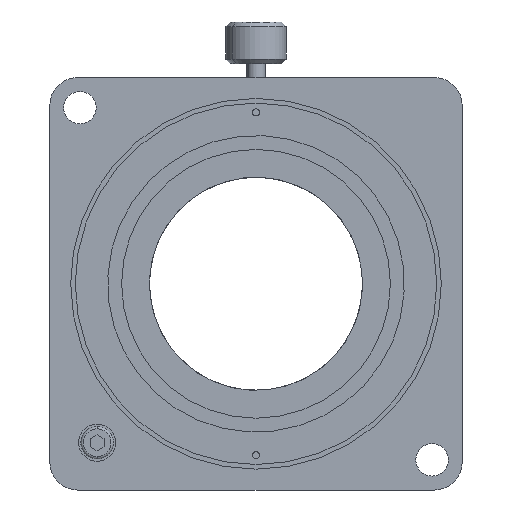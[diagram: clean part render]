
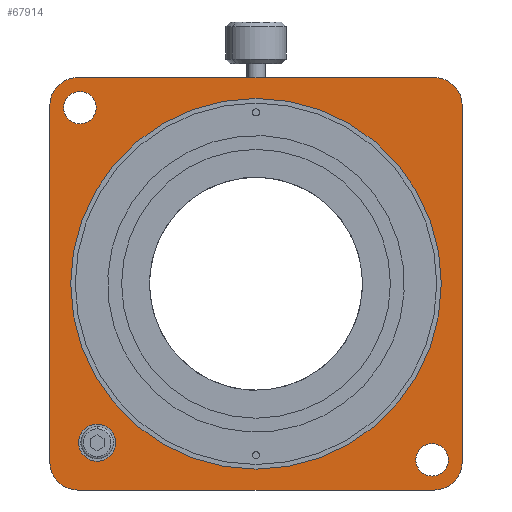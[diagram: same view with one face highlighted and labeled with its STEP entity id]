
A CAD part, front view. The second image highlights one B-rep face of the part: STEP entity #67914.
In plain terms, the highlighted planar face has unit normal (0, -1, 0).
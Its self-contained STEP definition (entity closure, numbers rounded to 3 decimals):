
#163 = CARTESIAN_POINT ( 'NONE',  ( -34.295, -10., -34.295 ) ) ;
#488 = DIRECTION ( 'NONE',  ( 0., 0., -1. ) ) ;
#994 = DIRECTION ( 'NONE',  ( 0., -1., 0. ) ) ;
#2302 = CARTESIAN_POINT ( 'NONE',  ( 38.5, -10., 38.5 ) ) ;
#3390 = CARTESIAN_POINT ( 'NONE',  ( -38., -10., 34.5 ) ) ;
#4283 = ORIENTED_EDGE ( 'NONE', *, *, #30777, .T. ) ;
#5084 = CARTESIAN_POINT ( 'NONE',  ( 44.5, -10., 44.5 ) ) ;
#5385 = ORIENTED_EDGE ( 'NONE', *, *, #60617, .F. ) ;
#5797 = CIRCLE ( 'NONE', #9444, 6. ) ;
#6558 = LINE ( 'NONE', #16370, #18154 ) ;
#7491 = CARTESIAN_POINT ( 'NONE',  ( -44.5, -10., -38.5 ) ) ;
#8184 = VERTEX_POINT ( 'NONE', #33749 ) ;
#8786 = EDGE_CURVE ( 'NONE', #54553, #35523, #75058, .T. ) ;
#9444 = AXIS2_PLACEMENT_3D ( 'NONE', #52425, #25826, #52726 ) ;
#9449 = VERTEX_POINT ( 'NONE', #44376 ) ;
#9494 = CARTESIAN_POINT ( 'NONE',  ( -38.5, -10., 38.5 ) ) ;
#10033 = VERTEX_POINT ( 'NONE', #79578 ) ;
#10203 = LINE ( 'NONE', #5084, #79869 ) ;
#10426 = CARTESIAN_POINT ( 'NONE',  ( -44.5, -10., 38.5 ) ) ;
#11196 = VECTOR ( 'NONE', #29151, 1000. ) ;
#11413 = DIRECTION ( 'NONE',  ( 0., -1., 0. ) ) ;
#12232 = CIRCLE ( 'NONE', #61338, 3.5 ) ;
#12913 = DIRECTION ( 'NONE',  ( 0., 0., -1. ) ) ;
#13559 = CARTESIAN_POINT ( 'NONE',  ( 44.5, -10., -44.5 ) ) ;
#14194 = FACE_OUTER_BOUND ( 'NONE', #14528, .T. ) ;
#14528 = EDGE_LOOP ( 'NONE', ( #80973, #4283, #18871, #68810, #70571, #61721, #41943, #74124 ) ) ;
#15386 = CIRCLE ( 'NONE', #86783, 3.5 ) ;
#15646 = DIRECTION ( 'NONE',  ( 0., 0., -1. ) ) ;
#16264 = DIRECTION ( 'NONE',  ( 0., 0., -1. ) ) ;
#16281 = AXIS2_PLACEMENT_3D ( 'NONE', #68569, #994, #75060 ) ;
#16284 = CIRCLE ( 'NONE', #63003, 40. ) ;
#16294 = VERTEX_POINT ( 'NONE', #10426 ) ;
#16370 = CARTESIAN_POINT ( 'NONE',  ( -44.5, -10., 44.5 ) ) ;
#18100 = VERTEX_POINT ( 'NONE', #19291 ) ;
#18154 = VECTOR ( 'NONE', #78882, 1000. ) ;
#18772 = CIRCLE ( 'NONE', #73175, 4. ) ;
#18871 = ORIENTED_EDGE ( 'NONE', *, *, #40743, .F. ) ;
#19035 = AXIS2_PLACEMENT_3D ( 'NONE', #9494, #69634, #16264 ) ;
#19291 = CARTESIAN_POINT ( 'NONE',  ( 38.5, -10., 44.5 ) ) ;
#20570 = FACE_BOUND ( 'NONE', #40618, .T. ) ;
#20881 = CARTESIAN_POINT ( 'NONE',  ( -44.5, -10., 44.5 ) ) ;
#21605 = EDGE_CURVE ( 'NONE', #75561, #8184, #39463, .T. ) ;
#23285 = VERTEX_POINT ( 'NONE', #35606 ) ;
#24381 = DIRECTION ( 'NONE',  ( 0., 1., 0. ) ) ;
#24474 = CARTESIAN_POINT ( 'NONE',  ( 38., -10., -41.5 ) ) ;
#25826 = DIRECTION ( 'NONE',  ( 0., -1., 0. ) ) ;
#26540 = EDGE_CURVE ( 'NONE', #37809, #52633, #77331, .T. ) ;
#28081 = EDGE_CURVE ( 'NONE', #9449, #16294, #64108, .T. ) ;
#28587 = ORIENTED_EDGE ( 'NONE', *, *, #8786, .T. ) ;
#28880 = ORIENTED_EDGE ( 'NONE', *, *, #21605, .F. ) ;
#29151 = DIRECTION ( 'NONE',  ( -1., 0., 0. ) ) ;
#29768 = EDGE_CURVE ( 'NONE', #9449, #18100, #6558, .T. ) ;
#30189 = VECTOR ( 'NONE', #68038, 1000. ) ;
#30777 = EDGE_CURVE ( 'NONE', #23285, #76899, #39260, .T. ) ;
#31673 = AXIS2_PLACEMENT_3D ( 'NONE', #49515, #35057, #62177 ) ;
#31995 = EDGE_LOOP ( 'NONE', ( #28587, #54175 ) ) ;
#32055 = CARTESIAN_POINT ( 'NONE',  ( 0., -10., 0. ) ) ;
#32189 = FACE_BOUND ( 'NONE', #73811, .T. ) ;
#33182 = EDGE_CURVE ( 'NONE', #73172, #49595, #69967, .T. ) ;
#33289 = DIRECTION ( 'NONE',  ( 0., -1., 0. ) ) ;
#33749 = CARTESIAN_POINT ( 'NONE',  ( 0., -10., -40. ) ) ;
#33905 = PLANE ( 'NONE',  #34659 ) ;
#34185 = DIRECTION ( 'NONE',  ( 0., -1., 0. ) ) ;
#34659 = AXIS2_PLACEMENT_3D ( 'NONE', #13559, #34185, #488 ) ;
#35057 = DIRECTION ( 'NONE',  ( 0., 1., 0. ) ) ;
#35091 = EDGE_CURVE ( 'NONE', #8184, #75561, #16284, .T. ) ;
#35523 = VERTEX_POINT ( 'NONE', #24474 ) ;
#35606 = CARTESIAN_POINT ( 'NONE',  ( 38.5, -10., -44.5 ) ) ;
#36618 = CARTESIAN_POINT ( 'NONE',  ( -34.295, -10., -30.295 ) ) ;
#36812 = DIRECTION ( 'NONE',  ( 0., 1., 0. ) ) ;
#37809 = VERTEX_POINT ( 'NONE', #36618 ) ;
#38421 = DIRECTION ( 'NONE',  ( 0., 0., -1. ) ) ;
#39260 = CIRCLE ( 'NONE', #16281, 6. ) ;
#39463 = CIRCLE ( 'NONE', #55266, 40. ) ;
#40129 = EDGE_CURVE ( 'NONE', #51396, #16294, #48111, .T. ) ;
#40618 = EDGE_LOOP ( 'NONE', ( #63919, #28880 ) ) ;
#40743 = EDGE_CURVE ( 'NONE', #81038, #76899, #10203, .T. ) ;
#41943 = ORIENTED_EDGE ( 'NONE', *, *, #40129, .F. ) ;
#44376 = CARTESIAN_POINT ( 'NONE',  ( -38.5, -10., 44.5 ) ) ;
#44673 = CIRCLE ( 'NONE', #55677, 6. ) ;
#45224 = AXIS2_PLACEMENT_3D ( 'NONE', #78084, #24381, #78367 ) ;
#46558 = EDGE_CURVE ( 'NONE', #49595, #73172, #15386, .T. ) ;
#48111 = LINE ( 'NONE', #20881, #30189 ) ;
#49214 = CARTESIAN_POINT ( 'NONE',  ( 38., -10., -34.5 ) ) ;
#49515 = CARTESIAN_POINT ( 'NONE',  ( 38., -10., -38. ) ) ;
#49595 = VERTEX_POINT ( 'NONE', #3390 ) ;
#50074 = CARTESIAN_POINT ( 'NONE',  ( -38., -10., 38. ) ) ;
#50117 = FACE_BOUND ( 'NONE', #66336, .T. ) ;
#51251 = EDGE_CURVE ( 'NONE', #35523, #54553, #12232, .T. ) ;
#51396 = VERTEX_POINT ( 'NONE', #7491 ) ;
#51436 = CARTESIAN_POINT ( 'NONE',  ( 0., -10., 0. ) ) ;
#51727 = DIRECTION ( 'NONE',  ( 0., -1., 0. ) ) ;
#52425 = CARTESIAN_POINT ( 'NONE',  ( -38.5, -10., -38.5 ) ) ;
#52633 = VERTEX_POINT ( 'NONE', #55201 ) ;
#52726 = DIRECTION ( 'NONE',  ( 0., 0., -1. ) ) ;
#54175 = ORIENTED_EDGE ( 'NONE', *, *, #51251, .T. ) ;
#54437 = DIRECTION ( 'NONE',  ( 0., 0., 1. ) ) ;
#54553 = VERTEX_POINT ( 'NONE', #49214 ) ;
#54566 = CARTESIAN_POINT ( 'NONE',  ( -38., -10., 41.5 ) ) ;
#54602 = EDGE_CURVE ( 'NONE', #23285, #10033, #82919, .T. ) ;
#55201 = CARTESIAN_POINT ( 'NONE',  ( -34.295, -10., -38.295 ) ) ;
#55266 = AXIS2_PLACEMENT_3D ( 'NONE', #51436, #51727, #64644 ) ;
#55677 = AXIS2_PLACEMENT_3D ( 'NONE', #2302, #82544, #15646 ) ;
#60617 = EDGE_CURVE ( 'NONE', #52633, #37809, #18772, .T. ) ;
#60672 = FACE_BOUND ( 'NONE', #31995, .T. ) ;
#61338 = AXIS2_PLACEMENT_3D ( 'NONE', #80096, #86833, #54437 ) ;
#61721 = ORIENTED_EDGE ( 'NONE', *, *, #28081, .T. ) ;
#62177 = DIRECTION ( 'NONE',  ( 0., 0., 1. ) ) ;
#63003 = AXIS2_PLACEMENT_3D ( 'NONE', #32055, #79782, #72698 ) ;
#63919 = ORIENTED_EDGE ( 'NONE', *, *, #35091, .F. ) ;
#64108 = CIRCLE ( 'NONE', #19035, 6. ) ;
#64191 = CARTESIAN_POINT ( 'NONE',  ( 44.5, -10., -38.5 ) ) ;
#64644 = DIRECTION ( 'NONE',  ( 0., 0., -1. ) ) ;
#66336 = EDGE_LOOP ( 'NONE', ( #5385, #85035 ) ) ;
#67914 = ADVANCED_FACE ( 'NONE', ( #20570, #50117, #32189, #60672, #14194 ), #33905, .T. ) ;
#68038 = DIRECTION ( 'NONE',  ( 0., 0., 1. ) ) ;
#68569 = CARTESIAN_POINT ( 'NONE',  ( 38.5, -10., -38.5 ) ) ;
#68806 = EDGE_CURVE ( 'NONE', #81038, #18100, #44673, .T. ) ;
#68810 = ORIENTED_EDGE ( 'NONE', *, *, #68806, .T. ) ;
#69634 = DIRECTION ( 'NONE',  ( 0., -1., 0. ) ) ;
#69967 = CIRCLE ( 'NONE', #45224, 3.5 ) ;
#70571 = ORIENTED_EDGE ( 'NONE', *, *, #29768, .F. ) ;
#72696 = CARTESIAN_POINT ( 'NONE',  ( 0., -10., 40. ) ) ;
#72698 = DIRECTION ( 'NONE',  ( 0., 0., -1. ) ) ;
#72716 = DIRECTION ( 'NONE',  ( 0., 0., -1. ) ) ;
#73172 = VERTEX_POINT ( 'NONE', #54566 ) ;
#73175 = AXIS2_PLACEMENT_3D ( 'NONE', #163, #33289, #12913 ) ;
#73811 = EDGE_LOOP ( 'NONE', ( #80966, #83555 ) ) ;
#74055 = CARTESIAN_POINT ( 'NONE',  ( 44.5, -10., 38.5 ) ) ;
#74124 = ORIENTED_EDGE ( 'NONE', *, *, #77065, .T. ) ;
#75058 = CIRCLE ( 'NONE', #31673, 3.5 ) ;
#75060 = DIRECTION ( 'NONE',  ( 0., 0., -1. ) ) ;
#75561 = VERTEX_POINT ( 'NONE', #72696 ) ;
#76899 = VERTEX_POINT ( 'NONE', #64191 ) ;
#77065 = EDGE_CURVE ( 'NONE', #51396, #10033, #5797, .T. ) ;
#77331 = CIRCLE ( 'NONE', #85304, 4. ) ;
#78084 = CARTESIAN_POINT ( 'NONE',  ( -38., -10., 38. ) ) ;
#78367 = DIRECTION ( 'NONE',  ( 0., 0., -1. ) ) ;
#78882 = DIRECTION ( 'NONE',  ( 1., 0., 0. ) ) ;
#79511 = CARTESIAN_POINT ( 'NONE',  ( -34.295, -10., -34.295 ) ) ;
#79578 = CARTESIAN_POINT ( 'NONE',  ( -38.5, -10., -44.5 ) ) ;
#79782 = DIRECTION ( 'NONE',  ( 0., -1., 0. ) ) ;
#79869 = VECTOR ( 'NONE', #38421, 1000. ) ;
#80096 = CARTESIAN_POINT ( 'NONE',  ( 38., -10., -38. ) ) ;
#80966 = ORIENTED_EDGE ( 'NONE', *, *, #33182, .T. ) ;
#80973 = ORIENTED_EDGE ( 'NONE', *, *, #54602, .F. ) ;
#81038 = VERTEX_POINT ( 'NONE', #74055 ) ;
#82544 = DIRECTION ( 'NONE',  ( 0., -1., 0. ) ) ;
#82785 = CARTESIAN_POINT ( 'NONE',  ( -44.5, -10., -44.5 ) ) ;
#82919 = LINE ( 'NONE', #82785, #11196 ) ;
#83555 = ORIENTED_EDGE ( 'NONE', *, *, #46558, .T. ) ;
#85035 = ORIENTED_EDGE ( 'NONE', *, *, #26540, .F. ) ;
#85304 = AXIS2_PLACEMENT_3D ( 'NONE', #79511, #11413, #72716 ) ;
#85442 = DIRECTION ( 'NONE',  ( 0., 0., -1. ) ) ;
#86783 = AXIS2_PLACEMENT_3D ( 'NONE', #50074, #36812, #85442 ) ;
#86833 = DIRECTION ( 'NONE',  ( 0., 1., 0. ) ) ;
